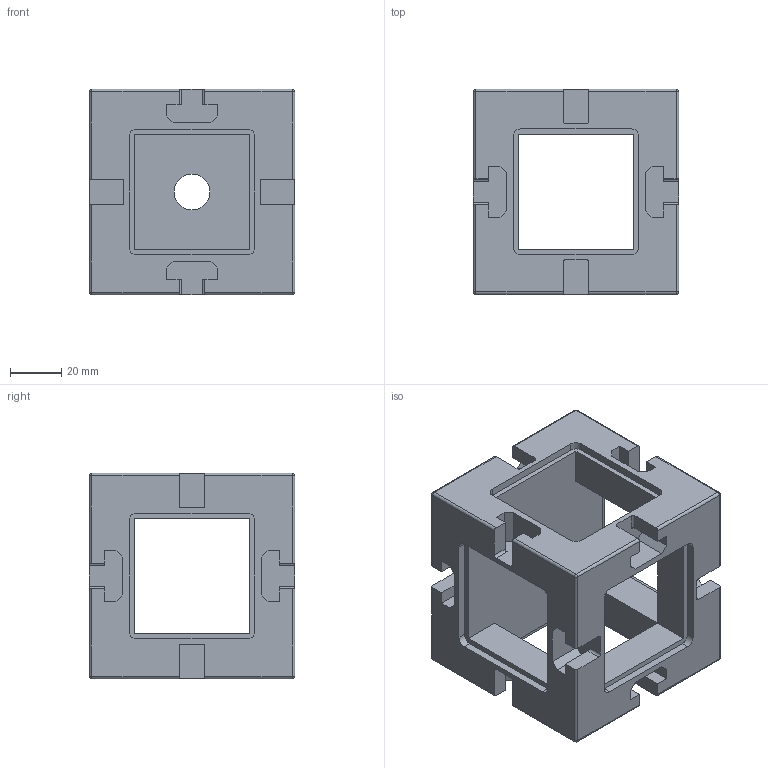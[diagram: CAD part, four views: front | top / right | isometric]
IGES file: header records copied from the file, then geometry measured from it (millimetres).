
Start section: SolidWorks IGES file using analytic representation for surfaces
Global section: file name: C:\Documents and Settings\Administrator\デスクトップ\6回目指定保存後\SolidWorks\SF\SF40・45\Bracket\SFJ-F04.IGS; native system: SolidWorks 2006 by SolidWorks Corporation; preprocessor: SolidWorks 2006 by SolidWorks Corporation; author: Administrator; date: 061219.111404; units: millimetre
Bounding box: 80 x 80 x 80 mm (x, y, z)
Volume: 197170.7 mm3; surface area: 54621.3 mm2
Topology: 1 solids, 1 shells, 295 faces, 827 edges, 532 vertices
Faces by surface type: plane 188, revolution 107
